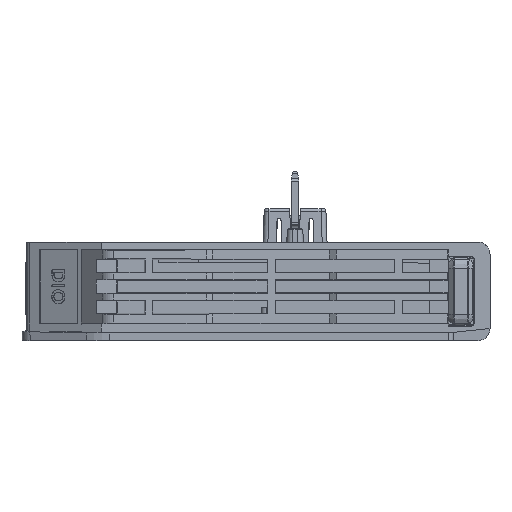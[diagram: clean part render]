
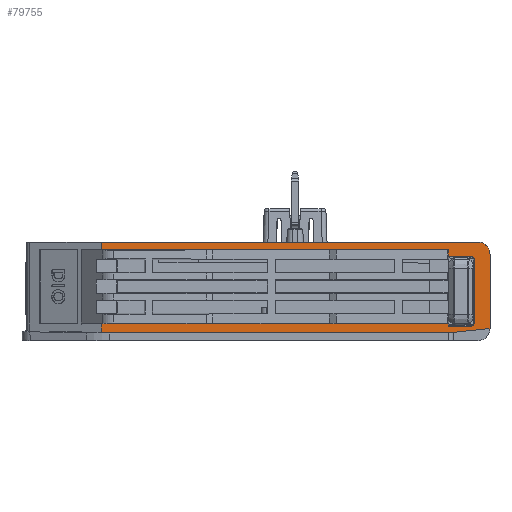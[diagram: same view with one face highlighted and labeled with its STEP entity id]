
A CAD part, front view. The second image highlights one B-rep face of the part: STEP entity #79755.
In plain terms, the highlighted planar face has unit normal (0, -1, 0).
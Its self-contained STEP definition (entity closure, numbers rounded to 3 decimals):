
#349 = ORIENTED_EDGE ( 'NONE', *, *, #39765, .F. ) ;
#798 = VERTEX_POINT ( 'NONE', #67494 ) ;
#1840 = EDGE_CURVE ( 'NONE', #62380, #86950, #3815, .T. ) ;
#2429 = ORIENTED_EDGE ( 'NONE', *, *, #21976, .F. ) ;
#3815 = LINE ( 'NONE', #6159, #46478 ) ;
#3989 = VERTEX_POINT ( 'NONE', #51536 ) ;
#4416 = EDGE_CURVE ( 'NONE', #82429, #27494, #79209, .T. ) ;
#4418 = DIRECTION ( 'NONE',  ( 1., 0., 0.001 ) ) ;
#5851 = VERTEX_POINT ( 'NONE', #79735 ) ;
#5932 = VERTEX_POINT ( 'NONE', #59967 ) ;
#6159 = CARTESIAN_POINT ( 'NONE',  ( -16.835, -4., -0.077 ) ) ;
#6846 = DIRECTION ( 'NONE',  ( 0., -1., 0. ) ) ;
#8110 = VECTOR ( 'NONE', #85405, 1000. ) ;
#8872 = CARTESIAN_POINT ( 'NONE',  ( 3.901, -4., 2.916 ) ) ;
#8938 = DIRECTION ( 'NONE',  ( 0., 0., -1. ) ) ;
#9098 = DIRECTION ( 'NONE',  ( -1., 0., 0. ) ) ;
#9142 = CARTESIAN_POINT ( 'NONE',  ( 4.314, -4., 3.915 ) ) ;
#11262 = CARTESIAN_POINT ( 'NONE',  ( 4.314, -4., 16.97 ) ) ;
#11550 = CARTESIAN_POINT ( 'NONE',  ( 3.316, -4., 17.384 ) ) ;
#12926 = CARTESIAN_POINT ( 'NONE',  ( -72.612, -4., 3.5 ) ) ;
#13076 = CARTESIAN_POINT ( 'NONE',  ( -3., -4., -130.729 ) ) ;
#13540 = CARTESIAN_POINT ( 'NONE',  ( -2.819, -4., 17.392 ) ) ;
#13637 = ORIENTED_EDGE ( 'NONE', *, *, #79138, .F. ) ;
#14272 = ORIENTED_EDGE ( 'NONE', *, *, #18962, .F. ) ;
#15133 =( BOUNDED_CURVE ( )  B_SPLINE_CURVE ( 3, ( #9142, #57648, #8872, #50221 ),
 .UNSPECIFIED., .F., .F. ) 
 B_SPLINE_CURVE_WITH_KNOTS ( ( 4, 4 ),
 ( 2.357, 3.926 ),
 .UNSPECIFIED. ) 
 CURVE ( )  GEOMETRIC_REPRESENTATION_ITEM ( )  RATIONAL_B_SPLINE_CURVE ( ( 1., 0.805, 0.805, 1. ) ) 
 REPRESENTATION_ITEM ( '' )  );
#15529 = CARTESIAN_POINT ( 'NONE',  ( -72.612, -4., 14.093 ) ) ;
#15569 = CIRCLE ( 'NONE', #82754, 2.5 ) ;
#15797 = LINE ( 'NONE', #25265, #52053 ) ;
#17896 = EDGE_LOOP ( 'NONE', ( #42205, #25597, #72931, #14272, #67356, #60085, #32166, #33564, #45057, #13637, #30188, #2429, #349, #76956, #52017, #51086 ) ) ;
#17979 = CARTESIAN_POINT ( 'NONE',  ( 4.314, -4., -130.729 ) ) ;
#18962 = EDGE_CURVE ( 'NONE', #40774, #48657, #37347, .T. ) ;
#19457 = CARTESIAN_POINT ( 'NONE',  ( 3.316, -4., 17.384 ) ) ;
#20881 = EDGE_CURVE ( 'NONE', #5851, #40774, #26696, .T. ) ;
#21300 = DIRECTION ( 'NONE',  ( 1., 0., 0. ) ) ;
#21897 = CARTESIAN_POINT ( 'NONE',  ( 5., -4., 17.8 ) ) ;
#21976 = EDGE_CURVE ( 'NONE', #5932, #70797, #15797, .T. ) ;
#22241 = EDGE_CURVE ( 'NONE', #798, #70797, #15133, .T. ) ;
#23808 = LINE ( 'NONE', #28899, #56860 ) ;
#24285 = EDGE_CURVE ( 'NONE', #82429, #50647, #35774, .T. ) ;
#24913 = DIRECTION ( 'NONE',  ( 0., 0., -1. ) ) ;
#25265 = CARTESIAN_POINT ( 'NONE',  ( -3.163, -4., 2.908 ) ) ;
#25597 = ORIENTED_EDGE ( 'NONE', *, *, #70738, .T. ) ;
#26696 = LINE ( 'NONE', #15529, #55538 ) ;
#26700 = DIRECTION ( 'NONE',  ( -0.994, 0., -0.105 ) ) ;
#27494 = VERTEX_POINT ( 'NONE', #85815 ) ;
#28429 = DIRECTION ( 'NONE',  ( 0., -1., 0. ) ) ;
#28683 = CARTESIAN_POINT ( 'NONE',  ( 4.314, -4., 16.385 ) ) ;
#28899 = CARTESIAN_POINT ( 'NONE',  ( -1.14, -4., -130.729 ) ) ;
#29025 = CARTESIAN_POINT ( 'NONE',  ( 0., -4., 1.706 ) ) ;
#29917 = VECTOR ( 'NONE', #59058, 1000. ) ;
#30188 = ORIENTED_EDGE ( 'NONE', *, *, #22241, .T. ) ;
#32166 = ORIENTED_EDGE ( 'NONE', *, *, #56632, .T. ) ;
#33330 = CARTESIAN_POINT ( 'NONE',  ( -91.975, -4., 3.5 ) ) ;
#33564 = ORIENTED_EDGE ( 'NONE', *, *, #51485, .F. ) ;
#34129 = DIRECTION ( 'NONE',  ( -1., 0., 0.001 ) ) ;
#34172 = CARTESIAN_POINT ( 'NONE',  ( -1.14, -4., 17.39 ) ) ;
#35774 = LINE ( 'NONE', #33330, #51723 ) ;
#37347 = LINE ( 'NONE', #61773, #72487 ) ;
#37913 = DIRECTION ( 'NONE',  ( 0., 0., 1. ) ) ;
#38194 = CARTESIAN_POINT ( 'NONE',  ( 7.5, -4., 0. ) ) ;
#38371 = CARTESIAN_POINT ( 'NONE',  ( 4.314, -4., 16.385 ) ) ;
#39374 = CARTESIAN_POINT ( 'NONE',  ( 3.316, -4., 2.916 ) ) ;
#39765 = EDGE_CURVE ( 'NONE', #50647, #5932, #42231, .T. ) ;
#40201 = DIRECTION ( 'NONE',  ( 1., 0., 0. ) ) ;
#40774 = VERTEX_POINT ( 'NONE', #60414 ) ;
#42205 = ORIENTED_EDGE ( 'NONE', *, *, #1840, .F. ) ;
#42231 = LINE ( 'NONE', #51587, #8110 ) ;
#43627 = VERTEX_POINT ( 'NONE', #19457 ) ;
#43734 = VECTOR ( 'NONE', #9098, 1000. ) ;
#45057 = ORIENTED_EDGE ( 'NONE', *, *, #78752, .T. ) ;
#46478 = VECTOR ( 'NONE', #26700, 1000. ) ;
#48657 = VERTEX_POINT ( 'NONE', #71999 ) ;
#50221 = CARTESIAN_POINT ( 'NONE',  ( 3.316, -4., 2.916 ) ) ;
#50647 = VERTEX_POINT ( 'NONE', #71205 ) ;
#51086 = ORIENTED_EDGE ( 'NONE', *, *, #87117, .F. ) ;
#51485 = EDGE_CURVE ( 'NONE', #43627, #75935, #79519, .T. ) ;
#51536 = CARTESIAN_POINT ( 'NONE',  ( -1.14, -4., 18.8 ) ) ;
#51587 = CARTESIAN_POINT ( 'NONE',  ( -1.14, -4., -130.729 ) ) ;
#51723 = VECTOR ( 'NONE', #40201, 1000. ) ;
#52002 = CARTESIAN_POINT ( 'NONE',  ( 7.5, -4., 2.5 ) ) ;
#52017 = ORIENTED_EDGE ( 'NONE', *, *, #4416, .T. ) ;
#52053 = VECTOR ( 'NONE', #4418, 1000. ) ;
#52136 = VERTEX_POINT ( 'NONE', #74410 ) ;
#54488 = DIRECTION ( 'NONE',  ( 1., 0., 0. ) ) ;
#55538 = VECTOR ( 'NONE', #76377, 1000. ) ;
#56632 = EDGE_CURVE ( 'NONE', #3989, #75935, #23808, .T. ) ;
#56683 = DIRECTION ( 'NONE',  ( 1., 0., 0. ) ) ;
#56860 = VECTOR ( 'NONE', #8938, 1000. ) ;
#57041 = VERTEX_POINT ( 'NONE', #28683 ) ;
#57648 = CARTESIAN_POINT ( 'NONE',  ( 4.314, -4., 3.33 ) ) ;
#58241 = DIRECTION ( 'NONE',  ( 0., 0., 1. ) ) ;
#59058 = DIRECTION ( 'NONE',  ( -1., 0., 0. ) ) ;
#59967 = CARTESIAN_POINT ( 'NONE',  ( -1.14, -4., 2.91 ) ) ;
#60085 = ORIENTED_EDGE ( 'NONE', *, *, #77343, .F. ) ;
#60414 = CARTESIAN_POINT ( 'NONE',  ( -72.612, -4., 20.3 ) ) ;
#61671 = PLANE ( 'NONE',  #73611 ) ;
#61773 = CARTESIAN_POINT ( 'NONE',  ( -3.268, -4., 20.3 ) ) ;
#62380 = VERTEX_POINT ( 'NONE', #52002 ) ;
#62749 = FACE_OUTER_BOUND ( 'NONE', #17896, .T. ) ;
#64049 = LINE ( 'NONE', #38194, #87644 ) ;
#65721 = CARTESIAN_POINT ( 'NONE',  ( -72.612, -4., 8.207 ) ) ;
#67356 = ORIENTED_EDGE ( 'NONE', *, *, #20881, .F. ) ;
#67494 = CARTESIAN_POINT ( 'NONE',  ( 4.314, -4., 3.915 ) ) ;
#69534 =( BOUNDED_CURVE ( )  B_SPLINE_CURVE ( 3, ( #11550, #72337, #11262, #38371 ),
 .UNSPECIFIED., .F., .F. ) 
 B_SPLINE_CURVE_WITH_KNOTS ( ( 4, 4 ),
 ( 2.357, 3.926 ),
 .UNSPECIFIED. ) 
 CURVE ( )  GEOMETRIC_REPRESENTATION_ITEM ( )  RATIONAL_B_SPLINE_CURVE ( ( 1., 0.805, 0.805, 1. ) ) 
 REPRESENTATION_ITEM ( '' )  );
#70298 = LINE ( 'NONE', #83425, #43734 ) ;
#70738 = EDGE_CURVE ( 'NONE', #62380, #52136, #64049, .T. ) ;
#70797 = VERTEX_POINT ( 'NONE', #39374 ) ;
#71205 = CARTESIAN_POINT ( 'NONE',  ( -1.14, -4., 3.5 ) ) ;
#71691 = VECTOR ( 'NONE', #24913, 1000. ) ;
#71999 = CARTESIAN_POINT ( 'NONE',  ( 5., -4., 20.3 ) ) ;
#72155 = CARTESIAN_POINT ( 'NONE',  ( -3., -4., 1.706 ) ) ;
#72337 = CARTESIAN_POINT ( 'NONE',  ( 3.901, -4., 17.384 ) ) ;
#72487 = VECTOR ( 'NONE', #56683, 1000. ) ;
#72571 = EDGE_CURVE ( 'NONE', #52136, #48657, #15569, .T. ) ;
#72931 = ORIENTED_EDGE ( 'NONE', *, *, #72571, .T. ) ;
#73611 = AXIS2_PLACEMENT_3D ( 'NONE', #13076, #6846, #54488 ) ;
#74117 = VECTOR ( 'NONE', #34129, 1000. ) ;
#74410 = CARTESIAN_POINT ( 'NONE',  ( 7.5, -4., 17.8 ) ) ;
#74672 = VECTOR ( 'NONE', #58241, 1000. ) ;
#75710 = LINE ( 'NONE', #72155, #29917 ) ;
#75935 = VERTEX_POINT ( 'NONE', #34172 ) ;
#76377 = DIRECTION ( 'NONE',  ( 0., 0., 1. ) ) ;
#76956 = ORIENTED_EDGE ( 'NONE', *, *, #24285, .F. ) ;
#77343 = EDGE_CURVE ( 'NONE', #3989, #5851, #70298, .T. ) ;
#77945 = LINE ( 'NONE', #17979, #74672 ) ;
#78752 = EDGE_CURVE ( 'NONE', #43627, #57041, #69534, .T. ) ;
#79138 = EDGE_CURVE ( 'NONE', #798, #57041, #77945, .T. ) ;
#79209 = LINE ( 'NONE', #65721, #71691 ) ;
#79519 = LINE ( 'NONE', #13540, #74117 ) ;
#79735 = CARTESIAN_POINT ( 'NONE',  ( -72.612, -4., 18.8 ) ) ;
#79755 = ADVANCED_FACE ( 'NONE', ( #62749 ), #61671, .T. ) ;
#82429 = VERTEX_POINT ( 'NONE', #12926 ) ;
#82754 = AXIS2_PLACEMENT_3D ( 'NONE', #21897, #28429, #21300 ) ;
#83425 = CARTESIAN_POINT ( 'NONE',  ( -3.268, -4., 18.8 ) ) ;
#85405 = DIRECTION ( 'NONE',  ( 0., 0., -1. ) ) ;
#85815 = CARTESIAN_POINT ( 'NONE',  ( -72.612, -4., 1.706 ) ) ;
#86950 = VERTEX_POINT ( 'NONE', #29025 ) ;
#87117 = EDGE_CURVE ( 'NONE', #86950, #27494, #75710, .T. ) ;
#87644 = VECTOR ( 'NONE', #37913, 1000. ) ;
